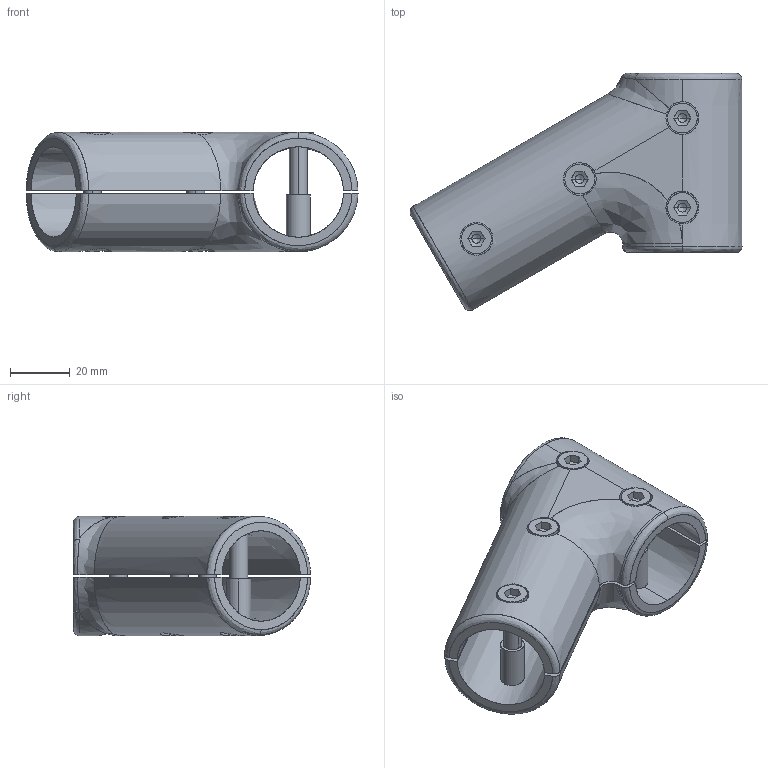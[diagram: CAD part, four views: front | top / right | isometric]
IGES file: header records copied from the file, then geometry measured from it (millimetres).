
Start section: SolidWorks IGES file using analytic representation for surfaces
Global section: file name: C:\Users\Gerard\OneDrive - Tecnodin, S.L\Escritorio\30 mm Verbinder im step. Format\31000410009.IGS; native system: SolidWorks 2016; preprocessor: SolidWorks 2016; author: Gerard; date: 240902.114445; units: millimetre
Bounding box: 111.27 x 79.53 x 40 mm (x, y, z)
Surface area: 39371.4 mm2 (no closed solid volume)
Topology: 0 solids, 0 shells, 230 faces, 4254 edges, 4234 vertices
Faces by surface type: revolution 139, bspline 91
